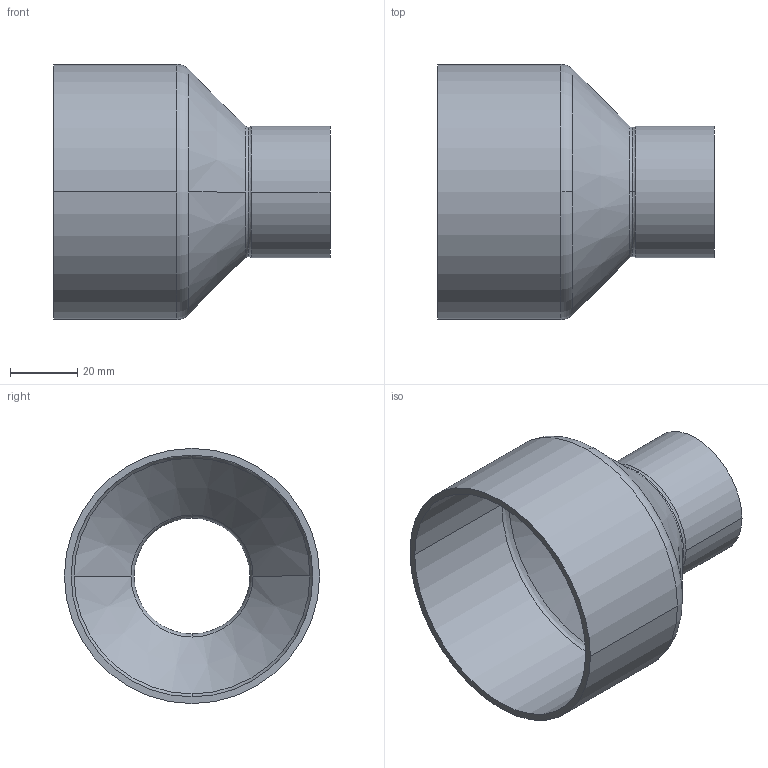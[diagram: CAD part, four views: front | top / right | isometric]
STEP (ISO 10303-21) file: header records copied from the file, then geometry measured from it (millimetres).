
FILE_DESCRIPTION((''),'2;1');
FILE_NAME('G:\Technics\CAD\Bauteile\Serie 15243\152437635.stp','2005-10-21T12:49:50',('boden'),(''),'Autodesk Inventor 8','Autodesk Inventor 8','');
FILE_SCHEMA(('AUTOMOTIVE_DESIGN { 1 0 10303 214 1 1 1 1 }'));
Length unit declared in the file: millimetre
Products named in the file (1): 152437635
Bounding box: 82.4 x 76.1 x 76.1 mm (x, y, z)
Volume: 32891.7 mm3; surface area: 33591.9 mm2
Topology: 1 solids, 1 shells, 26 faces, 68 edges, 44 vertices
Faces by surface type: cylinder 8, torus 6, bspline 6, cone 4, plane 2
Entity records: 1103 total; most frequent: CARTESIAN_POINT 403, DIRECTION 166, ORIENTED_EDGE 136, AXIS2_PLACEMENT_3D 77, EDGE_CURVE 68, CIRCLE 56, VERTEX_POINT 44, EDGE_LOOP 28
